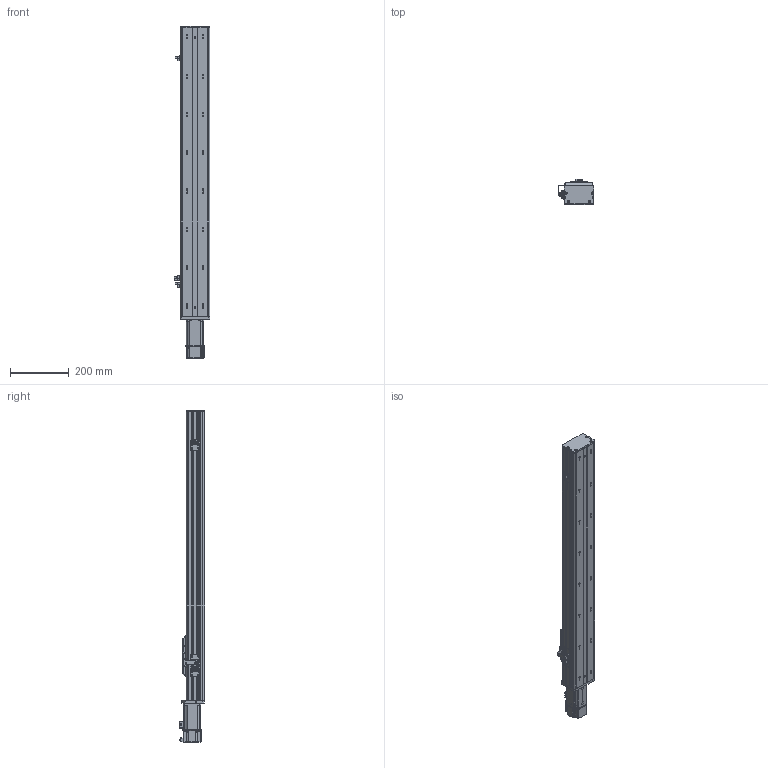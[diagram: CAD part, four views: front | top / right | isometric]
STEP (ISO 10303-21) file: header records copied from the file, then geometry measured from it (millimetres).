
FILE_DESCRIPTION (( 'STEP AP203' ), '1' );
FILE_NAME ('BOSW100-750-1610-1P-CM-M400W-O-S3（方程式2016）.step', '2020-10-10T06:35:39', ( '' ), ( '' ), 'SwSTEP 2.0', 'SolidWorks 2016', '' );
FILE_SCHEMA (( 'CONFIG_CONTROL_DESIGN' ));
Length unit declared in the file: millimetre
Products named in the file (13): BOSW&TW-100-俋离覜茼え; BOSW-100-1P-CM-宽轨-侧板-750客户图纸; BOSW&TW-100-詩湍揤沭(陔賦凳); 俋境嫖覜嘐隅啣; BOSW-100-1P-CM-宽轨-钢带-750客户图纸; S400W(SMA-L040); BOSW-100-綴裔啣; BOSW-100-1P-CM-750諦誧芞; BOSW&TW-100-1P-賑雄釱欶; BOSW100-750-1610-1P-CM-M400W-O-S3（方程式2016）; 新结构AIMSW-100-1P-宽&高轨共用-滑动座上组件; BOSW-100-CM-宽轨-三菱M200W&400W马达板(新结构); 放大器内置U型微型光电传感器PM-L65
Assembly tree (18 placements, depth 2):
  BOSW100-750-1610-1P-CM-M400W-O-S3（方程式2016）
    BOSW-100-1P-CM-750諦誧芞
    BOSW-100-綴裔啣
    新结构AIMSW-100-1P-宽&高轨共用-滑动座上组件
    S400W(SMA-L040)
    BOSW&TW-100-詩湍揤沭(陔賦凳)  x2
    BOSW&TW-100-1P-賑雄釱欶
    BOSW&TW-100-俋离覜茼え
    俋境嫖覜嘐隅啣  x3
    放大器内置U型微型光电传感器PM-L65  x3
    BOSW-100-CM-宽轨-三菱M200W&400W马达板(新结构)
    BOSW-100-1P-CM-宽轨-侧板-750客户图纸  x2
    BOSW-100-1P-CM-宽轨-钢带-750客户图纸
Bounding box: 120.9 x 85.5 x 1127.8 mm (x, y, z)
Volume: 2209880.4 mm3; surface area: 989694 mm2
Topology: 18 solids, 18 shells, 2523 faces, 6660 edges, 4249 vertices
Faces by surface type: plane 1226, cylinder 813, bspline 271, cone 165, torus 36, sphere 12
Entity records: 69156 total; most frequent: CARTESIAN_POINT 20762, ORIENTED_EDGE 9860, DIRECTION 9584, EDGE_CURVE 4930, AXIS2_PLACEMENT_3D 3422, VERTEX_POINT 3151, LINE 2740, VECTOR 2740
